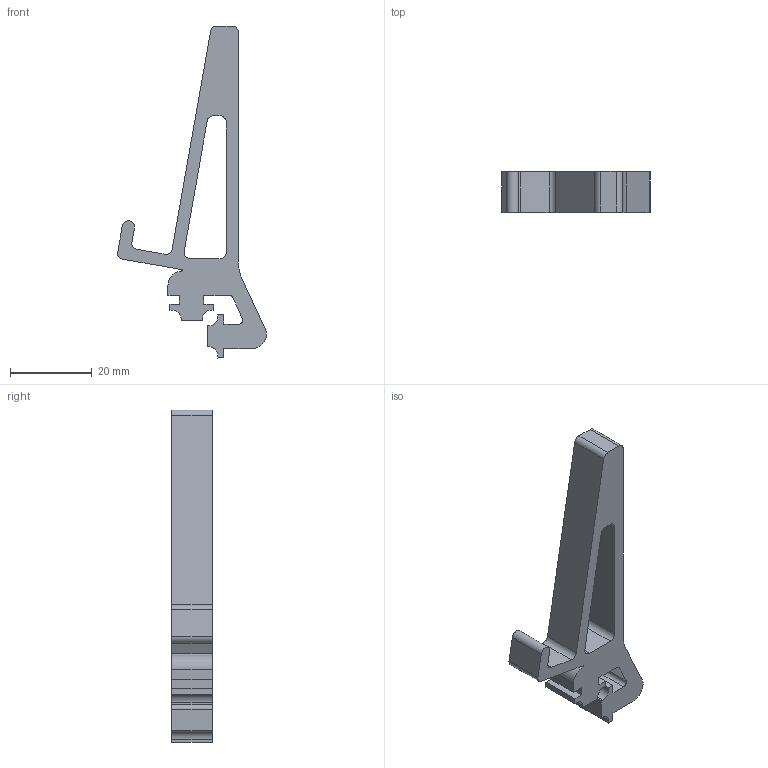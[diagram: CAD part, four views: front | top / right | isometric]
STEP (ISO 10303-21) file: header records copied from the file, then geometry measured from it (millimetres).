
FILE_DESCRIPTION(/* description */ ('STEP AP242 Edition 2','CAx-IF Rec.Pracs.---Representation and Presentation of Product Manufacturing Information (PMI)---4.0---2014-10-13','CAx-IF Rec.Pracs.---3D Tessellated Geometry---0.4---2014-09-14','2;1','CAx-IF Rec.Pracs.---User Defined Attributes---1.5---2016-08-15'),/* implementation_level */ '2;1');
FILE_NAME(/* name */ '698916d1df64250da45d7df8',/* time_stamp */ '2026-02-08T23:05:54Z',/* author */ (''),/* organization */ (''),/* preprocessor_version */ 'ST-DEVELOPER v20',/* originating_system */ 'ONSHAPE BY PTC INC, 1.210',/* authorisation */ ' ');
FILE_SCHEMA (('AP242_MANAGED_MODEL_BASED_3D_ENGINEERING_MIM_LF { 1 0 10303 442 3 1 4 }'));
Length unit declared in the file: metre
Products named in the file (1): 25deg_PhoneHolder_77x9mm_2020_Alluminium v4
Bounding box: 36.43 x 10 x 81.3 mm (x, y, z)
Volume: 7814.3 mm3; surface area: 5098.5 mm2
Topology: 1 solids, 1 shells, 60 faces, 174 edges, 116 vertices
Faces by surface type: plane 40, cylinder 20
Entity records: 2004 total; most frequent: CARTESIAN_POINT 351, ORIENTED_EDGE 348, DIRECTION 336, EDGE_CURVE 174, LINE 134, VECTOR 134, VERTEX_POINT 116, AXIS2_PLACEMENT_3D 101
